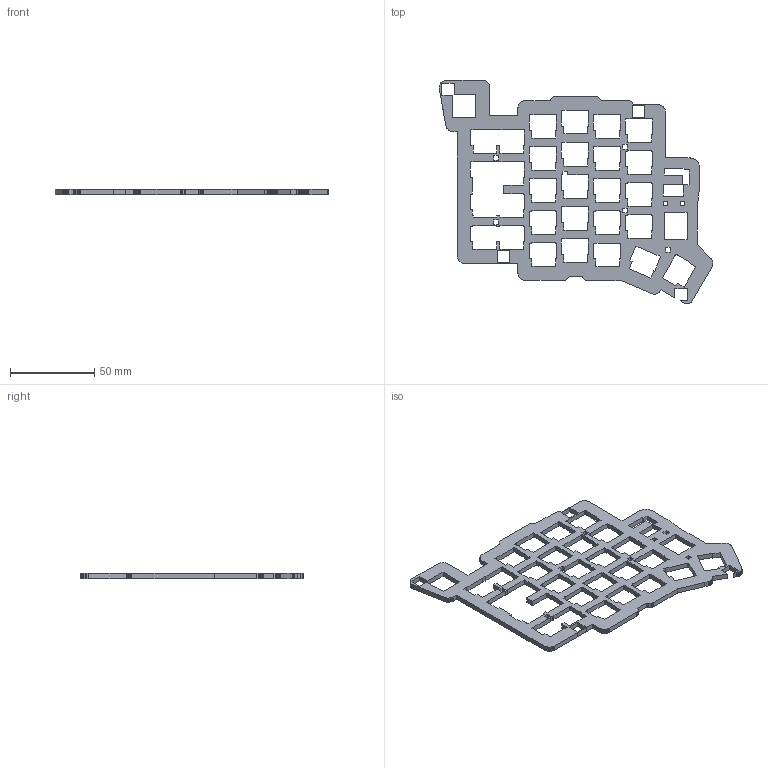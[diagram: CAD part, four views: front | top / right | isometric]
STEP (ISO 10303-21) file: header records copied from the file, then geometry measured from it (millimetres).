
FILE_DESCRIPTION(('Open CASCADE Model'),'2;1');
FILE_NAME('Open CASCADE Shape Model','1979-01-01T00:00:00',('Author'),( 'Open CASCADE'),'Open CASCADE STEP processor 8.0','Open CASCADE 8.0' ,'Unknown');
FILE_SCHEMA(('AUTOMOTIVE_DESIGN { 1 0 10303 214 1 1 1 1 }'));
Length unit declared in the file: millimetre
Products named in the file (1): Open CASCADE STEP translator 8.0 4
Bounding box: 162.51 x 132.49 x 3 mm (x, y, z)
Volume: 23476.5 mm3; surface area: 23410.8 mm2
Topology: 1 solids, 1 shells, 602 faces, 1800 edges, 1200 vertices
Faces by surface type: plane 602
Entity records: 43378 total; most frequent: CARTESIAN_POINT 7203, DIRECTION 6606, LINE 5400, VECTOR 5400, ORIENTED_EDGE 3600, PCURVE 3600, DEFINITIONAL_REPRESENTATION 3600, EDGE_CURVE 1800
